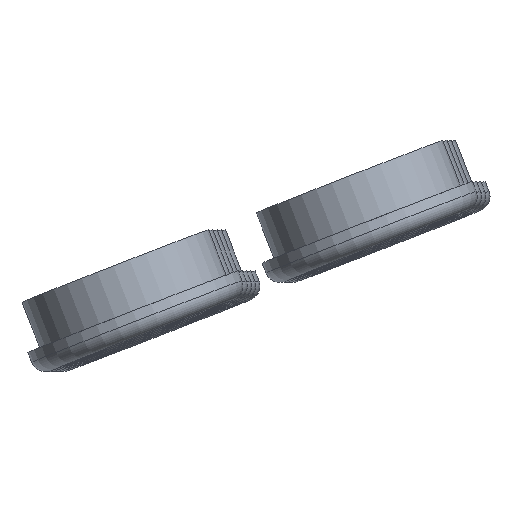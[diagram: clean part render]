
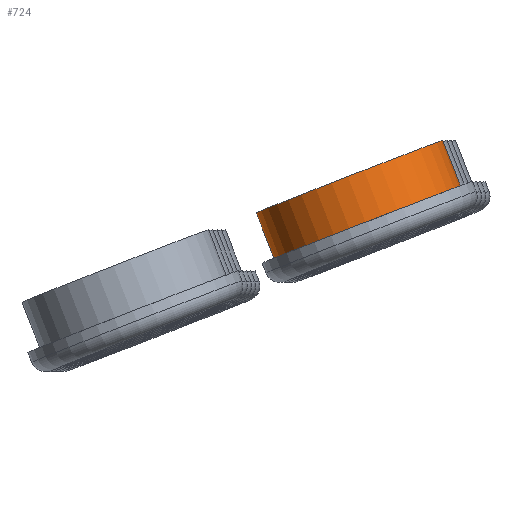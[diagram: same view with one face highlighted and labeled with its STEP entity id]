
A CAD part, left-side view. The second image highlights one B-rep face of the part: STEP entity #724.
In plain terms, the highlighted cylindrical face has radius 5.1 mm (diameter 10.2 mm), a full revolution.
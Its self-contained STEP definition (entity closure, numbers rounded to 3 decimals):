
#76=FACE_OUTER_BOUND('',#139,.T.);
#139=EDGE_LOOP('',(#499,#500,#501,#502));
#211=LINE('',#1236,#238);
#238=VECTOR('',#938,5.1);
#265=CIRCLE('',#798,5.1);
#266=CIRCLE('',#799,5.1);
#337=VERTEX_POINT('',#1233);
#338=VERTEX_POINT('',#1235);
#400=EDGE_CURVE('',#337,#337,#265,.F.);
#401=EDGE_CURVE('',#337,#338,#211,.T.);
#402=EDGE_CURVE('',#338,#338,#266,.F.);
#499=ORIENTED_EDGE('',*,*,#400,.F.);
#500=ORIENTED_EDGE('',*,*,#401,.T.);
#501=ORIENTED_EDGE('',*,*,#402,.T.);
#502=ORIENTED_EDGE('',*,*,#401,.F.);
#697=CYLINDRICAL_SURFACE('',#797,5.1);
#724=ADVANCED_FACE('',(#76),#697,.T.);
#797=AXIS2_PLACEMENT_3D('',#1232,#934,#935);
#798=AXIS2_PLACEMENT_3D('',#1234,#936,#937);
#799=AXIS2_PLACEMENT_3D('',#1237,#939,#940);
#934=DIRECTION('center_axis',(-0.006,-0.362,-0.932));
#935=DIRECTION('ref_axis',(-1.,0.018,0.));
#936=DIRECTION('center_axis',(-0.006,-0.362,-0.932));
#937=DIRECTION('ref_axis',(-1.,0.018,0.));
#938=DIRECTION('',(-0.006,-0.362,-0.932));
#939=DIRECTION('center_axis',(-0.006,-0.362,-0.932));
#940=DIRECTION('ref_axis',(-1.,0.018,0.));
#1232=CARTESIAN_POINT('Origin',(631.585,90.697,-130.379));
#1233=CARTESIAN_POINT('',(636.676,90.17,-131.507));
#1234=CARTESIAN_POINT('Origin',(631.577,90.259,-131.507));
#1235=CARTESIAN_POINT('',(636.66,89.265,-133.838));
#1236=CARTESIAN_POINT('',(636.684,90.608,-130.379));
#1237=CARTESIAN_POINT('Origin',(631.561,89.355,-133.838));
